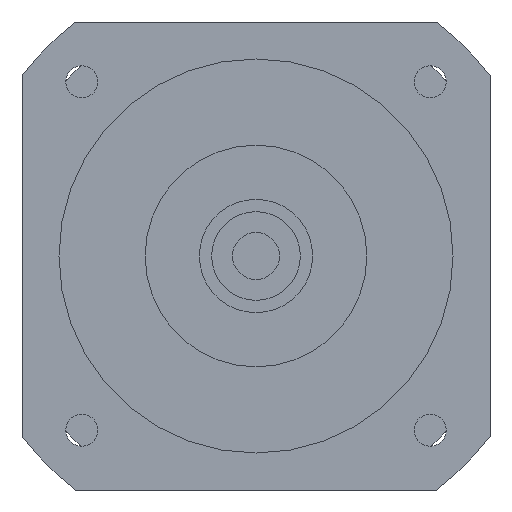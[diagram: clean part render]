
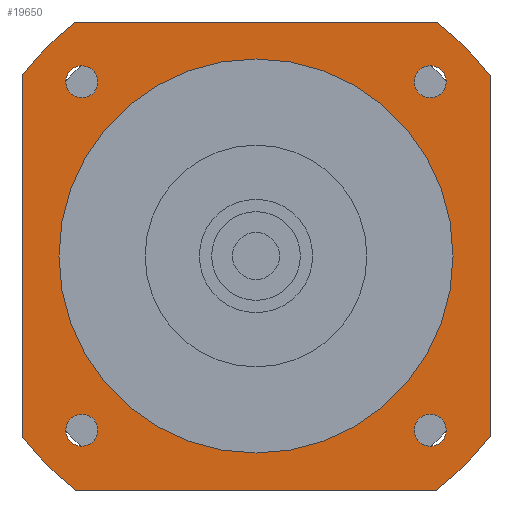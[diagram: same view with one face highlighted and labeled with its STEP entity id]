
A CAD part, left-side view. The second image highlights one B-rep face of the part: STEP entity #19650.
In plain terms, the highlighted planar face has unit normal (-1, 0, 0) as drawn and (0, 0, -1) by its records, which use the part's own axes.
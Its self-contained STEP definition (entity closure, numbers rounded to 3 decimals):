
#14250=CARTESIAN_POINT('',(47.5,36.657,-43.));
#14260=VERTEX_POINT('',#14250);
#14310=CARTESIAN_POINT('',(47.5,47.5,-43.));
#14320=DIRECTION('',(0.,-1.,0.));
#14330=VECTOR('',#14320,1000.);
#14340=LINE('',#14310,#14330);
#14350=CARTESIAN_POINT('',(47.5,-36.657,-43.));
#14360=VERTEX_POINT('',#14350);
#14370=EDGE_CURVE('',#14260,#14360,#14340,.T.);
#18070=CARTESIAN_POINT('',(-32.105,35.355,-43.));
#18080=VERTEX_POINT('',#18070);
#18110=CARTESIAN_POINT('',(-35.355,35.355,-43.));
#18120=DIRECTION('',(0.,0.,-1.));
#18130=DIRECTION('',(-1.,0.,0.));
#18140=AXIS2_PLACEMENT_3D('',#18110,#18120,#18130);
#18150=CIRCLE('',#18140,3.25);
#18160=CARTESIAN_POINT('',(-38.605,35.355,-43.));
#18170=VERTEX_POINT('',#18160);
#18180=EDGE_CURVE('',#18170,#18080,#18150,.T.);
#18300=CARTESIAN_POINT('',(47.5,47.5,-43.));
#18310=DIRECTION('',(0.,0.,-1.));
#18320=DIRECTION('',(1.,0.,0.));
#18330=AXIS2_PLACEMENT_3D('',#18300,#18310,#18320);
#18340=PLANE('',#18330);
#18350=ORIENTED_EDGE('',*,*,#18180,.F.);
#18360=EDGE_CURVE('',#18080,#18170,#18150,.T.);
#18370=ORIENTED_EDGE('',*,*,#18360,.F.);
#18380=EDGE_LOOP('',(#18370,#18350));
#18390=FACE_BOUND('',#18380,.T.);
#18400=CARTESIAN_POINT('',(35.355,35.355,-43.));
#18410=DIRECTION('',(0.,0.,-1.));
#18420=DIRECTION('',(0.,1.,0.));
#18430=AXIS2_PLACEMENT_3D('',#18400,#18410,#18420);
#18440=CIRCLE('',#18430,3.25);
#18450=CARTESIAN_POINT('',(35.355,38.605,-43.));
#18460=VERTEX_POINT('',#18450);
#18470=CARTESIAN_POINT('',(35.355,32.105,-43.));
#18480=VERTEX_POINT('',#18470);
#18490=EDGE_CURVE('',#18460,#18480,#18440,.T.);
#18500=ORIENTED_EDGE('',*,*,#18490,.F.);
#18510=EDGE_CURVE('',#18480,#18460,#18440,.T.);
#18520=ORIENTED_EDGE('',*,*,#18510,.F.);
#18530=EDGE_LOOP('',(#18520,#18500));
#18540=FACE_BOUND('',#18530,.T.);
#18550=CARTESIAN_POINT('',(0.,0.,
-43.));
#18560=DIRECTION('',(0.,0.,1.));
#18570=DIRECTION('',(0.,1.,0.));
#18580=AXIS2_PLACEMENT_3D('',#18550,#18560,#18570);
#18590=CIRCLE('',#18580,40.);
#18600=CARTESIAN_POINT('',(-40.,0.,-43.));
#18610=VERTEX_POINT('',#18600);
#18620=CARTESIAN_POINT('',(40.,0.,-43.));
#18630=VERTEX_POINT('',#18620);
#18640=EDGE_CURVE('',#18610,#18630,#18590,.T.);
#18650=ORIENTED_EDGE('',*,*,#18640,.T.);
#18660=CARTESIAN_POINT('',(0.,40.,-43.));
#18670=VERTEX_POINT('',#18660);
#18680=EDGE_CURVE('',#18670,#18610,#18590,.T.);
#18690=ORIENTED_EDGE('',*,*,#18680,.T.);
#18700=EDGE_CURVE('',#18630,#18670,#18590,.T.);
#18710=ORIENTED_EDGE('',*,*,#18700,.T.);
#18720=EDGE_LOOP('',(#18710,#18690,#18650));
#18730=FACE_BOUND('',#18720,.T.);
#18740=CARTESIAN_POINT('',(35.355,-35.355,-43.));
#18750=DIRECTION('',(0.,0.,-1.));
#18760=DIRECTION('',(1.,0.,0.));
#18770=AXIS2_PLACEMENT_3D('',#18740,#18750,#18760);
#18780=CIRCLE('',#18770,3.25);
#18790=CARTESIAN_POINT('',(38.605,-35.355,-43.));
#18800=VERTEX_POINT('',#18790);
#18810=CARTESIAN_POINT('',(32.105,-35.355,-43.));
#18820=VERTEX_POINT('',#18810);
#18830=EDGE_CURVE('',#18800,#18820,#18780,.T.);
#18840=ORIENTED_EDGE('',*,*,#18830,.F.);
#18850=EDGE_CURVE('',#18820,#18800,#18780,.T.);
#18860=ORIENTED_EDGE('',*,*,#18850,.F.);
#18870=EDGE_LOOP('',(#18860,#18840));
#18880=FACE_BOUND('',#18870,.T.);
#18890=CARTESIAN_POINT('',(-35.355,-35.355,-43.));
#18900=DIRECTION('',(0.,0.,-1.));
#18910=DIRECTION('',(0.,-1.,0.));
#18920=AXIS2_PLACEMENT_3D('',#18890,#18900,#18910);
#18930=CIRCLE('',#18920,3.25);
#18940=CARTESIAN_POINT('',(-35.355,-38.605,-43.));
#18950=VERTEX_POINT('',#18940);
#18960=CARTESIAN_POINT('',(-35.355,-32.105,-43.));
#18970=VERTEX_POINT('',#18960);
#18980=EDGE_CURVE('',#18950,#18970,#18930,.T.);
#18990=ORIENTED_EDGE('',*,*,#18980,.F.);
#19000=EDGE_CURVE('',#18970,#18950,#18930,.T.);
#19010=ORIENTED_EDGE('',*,*,#19000,.F.);
#19020=EDGE_LOOP('',(#19010,#18990));
#19030=FACE_BOUND('',#19020,.T.);
#19040=CARTESIAN_POINT('',(-47.5,47.5,-43.));
#19050=DIRECTION('',(1.,0.,0.));
#19060=VECTOR('',#19050,1000.);
#19070=LINE('',#19040,#19060);
#19080=CARTESIAN_POINT('',(-36.657,47.5,-43.));
#19090=VERTEX_POINT('',#19080);
#19100=CARTESIAN_POINT('',(36.657,47.5,-43.));
#19110=VERTEX_POINT('',#19100);
#19120=EDGE_CURVE('',#19090,#19110,#19070,.T.);
#19130=ORIENTED_EDGE('',*,*,#19120,.T.);
#19140=CARTESIAN_POINT('',(0.,0.,-43.));
#19150=DIRECTION('',(0.,0.,-1.));
#19160=DIRECTION('',(1.,0.,0.));
#19170=AXIS2_PLACEMENT_3D('',#19140,#19150,#19160);
#19180=CIRCLE('',#19170,60.);
#19190=CARTESIAN_POINT('',(-47.5,36.657,-43.));
#19200=VERTEX_POINT('',#19190);
#19210=EDGE_CURVE('',#19200,#19090,#19180,.T.);
#19220=ORIENTED_EDGE('',*,*,#19210,.T.);
#19230=CARTESIAN_POINT('',(-47.5,-47.5,-43.));
#19240=DIRECTION('',(0.,1.,0.));
#19250=VECTOR('',#19240,1000.);
#19260=LINE('',#19230,#19250);
#19270=CARTESIAN_POINT('',(-47.5,-36.657,-43.));
#19280=VERTEX_POINT('',#19270);
#19290=EDGE_CURVE('',#19280,#19200,#19260,.T.);
#19300=ORIENTED_EDGE('',*,*,#19290,.T.);
#19310=CARTESIAN_POINT('',(0.,0.,-43.));
#19320=DIRECTION('',(0.,0.,-1.));
#19330=DIRECTION('',(1.,0.,0.));
#19340=AXIS2_PLACEMENT_3D('',#19310,#19320,#19330);
#19350=CIRCLE('',#19340,60.);
#19360=CARTESIAN_POINT('',(-36.657,-47.5,-43.));
#19370=VERTEX_POINT('',#19360);
#19380=EDGE_CURVE('',#19370,#19280,#19350,.T.);
#19390=ORIENTED_EDGE('',*,*,#19380,.T.);
#19400=CARTESIAN_POINT('',(47.5,-47.5,-43.));
#19410=DIRECTION('',(-1.,0.,0.));
#19420=VECTOR('',#19410,1000.);
#19430=LINE('',#19400,#19420);
#19440=CARTESIAN_POINT('',(36.657,-47.5,-43.));
#19450=VERTEX_POINT('',#19440);
#19460=EDGE_CURVE('',#19450,#19370,#19430,.T.);
#19470=ORIENTED_EDGE('',*,*,#19460,.T.);
#19480=CARTESIAN_POINT('',(0.,0.,-43.));
#19490=DIRECTION('',(0.,0.,-1.));
#19500=DIRECTION('',(1.,0.,0.));
#19510=AXIS2_PLACEMENT_3D('',#19480,#19490,#19500);
#19520=CIRCLE('',#19510,60.);
#19530=EDGE_CURVE('',#14360,#19450,#19520,.T.);
#19540=ORIENTED_EDGE('',*,*,#19530,.T.);
#19550=ORIENTED_EDGE('',*,*,#14370,.T.);
#19560=CARTESIAN_POINT('',(0.,0.,-43.));
#19570=DIRECTION('',(0.,0.,-1.));
#19580=DIRECTION('',(1.,0.,0.));
#19590=AXIS2_PLACEMENT_3D('',#19560,#19570,#19580);
#19600=CIRCLE('',#19590,60.);
#19610=EDGE_CURVE('',#19110,#14260,#19600,.T.);
#19620=ORIENTED_EDGE('',*,*,#19610,.T.);
#19630=EDGE_LOOP('',(#19620,#19550,#19540,#19470,#19390,#19300,#19220,
#19130));
#19640=FACE_OUTER_BOUND('',#19630,.T.);
#19650=ADVANCED_FACE('',(#18390,#18540,#18730,#18880,#19030,#19640),
#18340,.T.);
